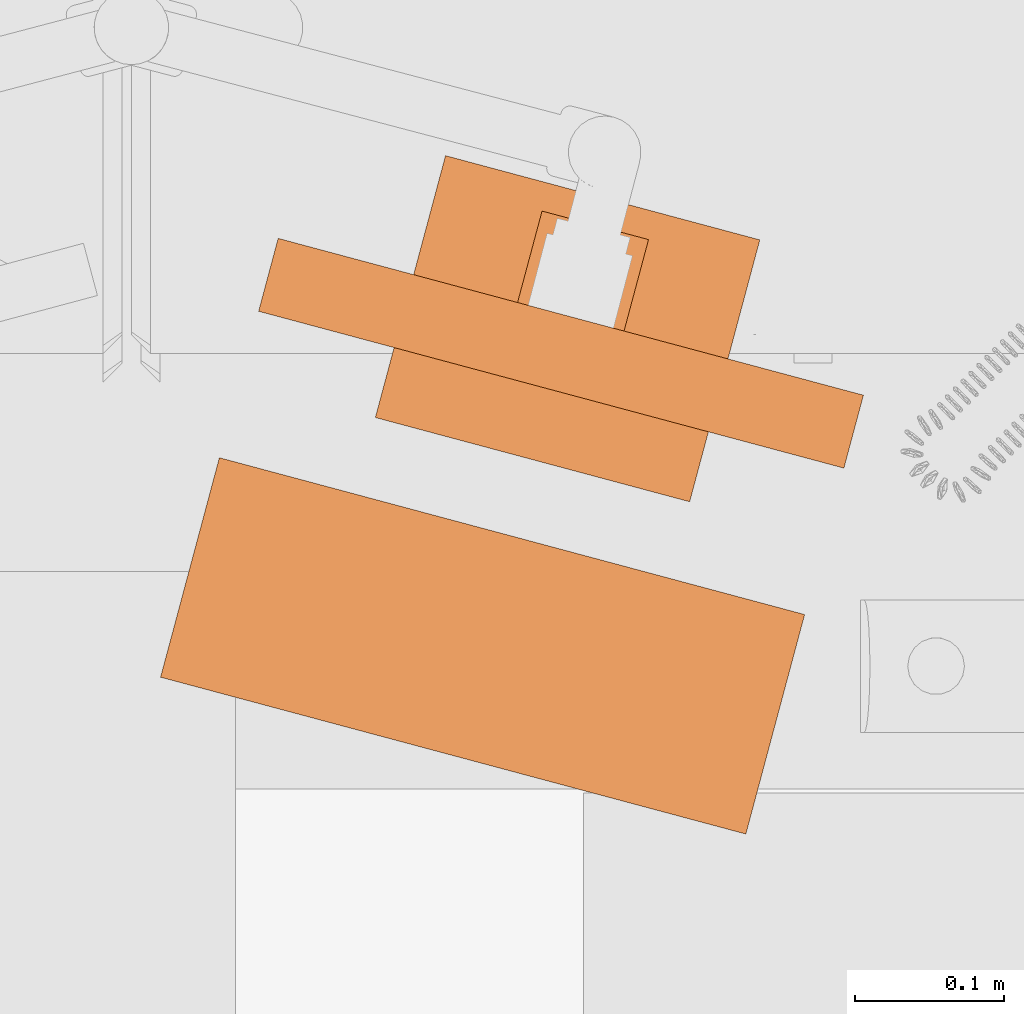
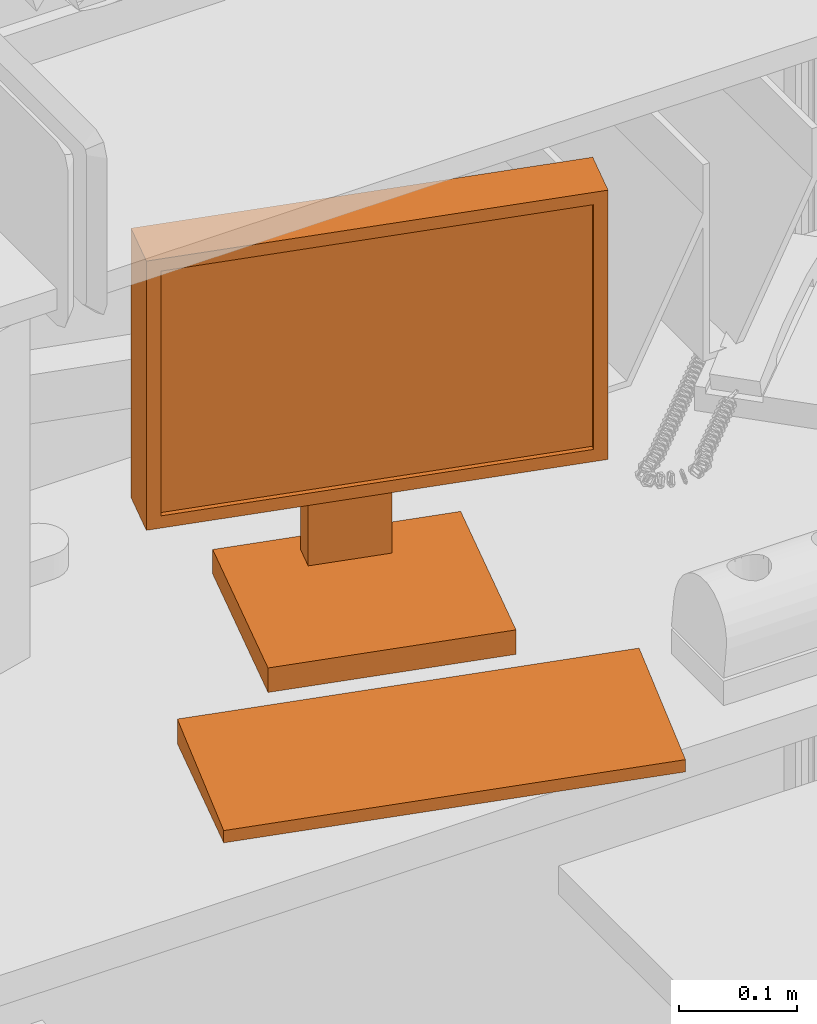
# One storey, part 9 of 9: 1 proxy.
"""IFC2X3 building model written with IfcOpenShell, lengths in feet."""

from ifc_helpers import new_model, entity, si_unit, converted_unit, derived_unit, direction, frame, origin, place, context, subcontext, project, spatial, faceted_brep, source, transform, mapped, type_object, type_shapes, element, save


model = new_model("IFC2X3")

# Units and contexts
model_context = context("Model", 3, precision=0.0001, world=origin(), true_north=direction((6.12303176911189e-17, 1.0)))
body_context = subcontext(model_context, "Body", "Model", "MODEL_VIEW")
ifc_project = project(units=[converted_unit("LENGTHUNIT", "FOOT", entity("IfcRatioMeasure", 0.3048), si_unit("LENGTHUNIT", "METRE"), dimensions=[1, 0, 0, 0, 0, 0, 0]), converted_unit("AREAUNIT", "SQUARE FOOT", entity("IfcRatioMeasure", 0.09290304), si_unit("AREAUNIT", "SQUARE_METRE"), dimensions=[2, 0, 0, 0, 0, 0, 0]), converted_unit("VOLUMEUNIT", "CUBIC FOOT", entity("IfcRatioMeasure", 0.028316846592), si_unit("VOLUMEUNIT", "CUBIC_METRE"), dimensions=[3, 0, 0, 0, 0, 0, 0]), converted_unit("PLANEANGLEUNIT", "DEGREE", entity("IfcRatioMeasure", 0.0174532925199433), si_unit("PLANEANGLEUNIT", "RADIAN"), dimensions=[0, 0, 0, 0, 0, 0, 0]), si_unit("MASSUNIT", "GRAM", prefix="KILO"), derived_unit("MASSDENSITYUNIT", [(si_unit("MASSUNIT", "GRAM", prefix="KILO"), 1), (si_unit("LENGTHUNIT", "METRE"), -3)]), si_unit("TIMEUNIT", "SECOND"), si_unit("FREQUENCYUNIT", "HERTZ"), si_unit("THERMODYNAMICTEMPERATUREUNIT", "DEGREE_CELSIUS"), derived_unit("THERMALTRANSMITTANCEUNIT", [(si_unit("MASSUNIT", "GRAM", prefix="KILO"), 1), (si_unit("THERMODYNAMICTEMPERATUREUNIT", "KELVIN"), -1), (si_unit("TIMEUNIT", "SECOND"), -3)]), derived_unit("VOLUMETRICFLOWRATEUNIT", [(si_unit("LENGTHUNIT", "METRE"), 3), (si_unit("TIMEUNIT", "SECOND"), -1)]), si_unit("ELECTRICCURRENTUNIT", "AMPERE"), si_unit("ELECTRICVOLTAGEUNIT", "VOLT"), si_unit("POWERUNIT", "WATT"), si_unit("FORCEUNIT", "NEWTON"), si_unit("ILLUMINANCEUNIT", "LUX"), si_unit("LUMINOUSFLUXUNIT", "LUMEN"), si_unit("LUMINOUSINTENSITYUNIT", "CANDELA"), derived_unit("USERDEFINED", [(si_unit("MASSUNIT", "GRAM", prefix="KILO"), -1), (si_unit("LENGTHUNIT", "METRE"), -2), (si_unit("TIMEUNIT", "SECOND"), 3), (si_unit("LUMINOUSFLUXUNIT", "LUMEN"), 1)]), derived_unit("LINEARVELOCITYUNIT", [(si_unit("LENGTHUNIT", "METRE"), 1), (si_unit("TIMEUNIT", "SECOND"), -1)]), si_unit("PRESSUREUNIT", "PASCAL"), derived_unit("USERDEFINED", [(si_unit("LENGTHUNIT", "METRE"), -2), (si_unit("MASSUNIT", "GRAM", prefix="KILO"), 1), (si_unit("TIMEUNIT", "SECOND"), -2)])], contexts=[model_context])

# Site, building, storey, space
site_placement = place(None, origin())
site = spatial("IfcSite", under=ifc_project, at=site_placement, Name="Default", CompositionType="ELEMENT")
building_placement = place(site_placement, origin())
building = spatial("IfcBuilding", under=site, at=building_placement, Name="AUDIOLOGY AND SPEECH PATHOLOGY (Ch. 204)", CompositionType="ELEMENT")
storey_placement = place(building_placement, frame((0.0, 0.0, 42.0)))
storey = spatial("IfcBuildingStorey", under=building, at=storey_placement, Name="AUD01 - Audiology Rehabilitation/Counseling", CompositionType="ELEMENT", Elevation=42.0)
space_placement = place(storey_placement, origin())
space = spatial("IfcSpace", under=storey, at=space_placement, Name="(AUD01)", CompositionType="ELEMENT", InteriorOrExteriorSpace="INTERNAL")

# Proxy
building_element_proxy_type = type_object("IfcBuildingElementProxyType", Name="M1801 - Computer, Microprocessing, With Flat Panel Monitor", PredefinedType="NOTDEFINED")
shared_shape = source(origin(), body_context, "Body", "Brep", [
    faceted_brep([(0.666666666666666, 0.437223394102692, 1.41666666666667), (-0.666666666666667, 0.437223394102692, 1.41666666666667), (-0.666666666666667, 0.271109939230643, 1.41666666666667), (0.666666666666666, 0.271109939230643, 1.41666666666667), (0.666666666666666, 0.437223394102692, 0.500000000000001), (0.666666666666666, 0.271109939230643, 0.500000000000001), (-0.666666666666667, 0.271109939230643, 0.500000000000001), (-0.666666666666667, 0.437223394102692, 0.500000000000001), (-0.625, 0.271109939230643, 1.375), (0.625, 0.271109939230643, 1.375), (0.625, 0.271109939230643, 0.541666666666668), (-0.625, 0.271109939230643, 0.541666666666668), (0.625, 0.286812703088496, 1.375), (-0.625, 0.286812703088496, 1.375), (0.625, 0.286812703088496, 0.541666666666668), (-0.625, 0.286812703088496, 0.541666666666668)], [[[0, 1, 2, 3]], [[4, 5, 6, 7]], [[1, 0, 4, 7]], [[2, 1, 7, 6]], [[3, 2, 6, 5], [8, 9, 10, 11]], [[0, 3, 5, 4]], [[12, 9, 8, 13]], [[14, 15, 11, 10]], [[12, 13, 15, 14]], [[13, 8, 11, 15]], [[9, 12, 14, 10]]]),
    faceted_brep([(0.358011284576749, 0.111770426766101, 0.0833333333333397), (0.358011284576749, 0.111770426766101, 0.0), (0.358011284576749, 0.708333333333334, 0.0), (0.358011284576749, 0.708333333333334, 0.0833333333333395), (-0.358011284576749, 0.708333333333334, 0.0833333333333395), (-0.358011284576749, 0.708333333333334, 0.0), (-0.358011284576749, 0.111770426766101, 0.0), (-0.358011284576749, 0.111770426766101, 0.0833333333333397), (0.12128795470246, 0.645556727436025, 0.104166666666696), (0.12128795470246, 0.645556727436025, 0.0833333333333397), (-0.12128795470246, 0.645556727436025, 0.0833333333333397), (-0.12128795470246, 0.645556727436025, 0.104166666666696), (0.12128795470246, 0.645556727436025, 0.958333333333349), (-0.12128795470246, 0.645556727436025, 0.958333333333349), (0.12128795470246, 0.437223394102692, 0.958333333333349), (-0.12128795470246, 0.437223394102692, 0.958333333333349), (0.12128795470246, 0.437223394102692, 0.791666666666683), (-0.12128795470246, 0.437223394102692, 0.791666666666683), (0.12128795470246, 0.562223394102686, 0.791666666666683), (-0.12128795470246, 0.562223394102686, 0.791666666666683), (0.12128795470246, 0.562223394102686, 0.0833333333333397), (-0.12128795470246, 0.562223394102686, 0.0833333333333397)], [[[0, 1, 2, 3]], [[4, 5, 6, 7]], [[8, 9, 10, 11]], [[12, 8, 11, 13]], [[14, 12, 13, 15]], [[16, 14, 15, 17]], [[18, 16, 17, 19]], [[20, 18, 19, 21]], [[0, 3, 4, 7], [9, 20, 21, 10]], [[1, 0, 7, 6]], [[2, 1, 6, 5]], [[3, 2, 5, 4]], [[20, 9, 8, 12, 14, 16, 18]], [[10, 21, 19, 17, 15, 13, 11]]]),
    faceted_brep([(0.666666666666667, -0.5625, 0.0), (0.666666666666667, -0.0624999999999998, 0.0), (0.666666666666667, -0.0624999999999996, 0.0833333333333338), (0.666666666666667, -0.5625, 0.0416666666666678), (-0.666666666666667, -0.5625, 0.0), (-0.666666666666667, -0.5625, 0.0416666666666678), (-0.666666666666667, -0.0624999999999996, 0.0833333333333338), (-0.666666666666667, -0.0624999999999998, 0.0)], [[[0, 1, 2, 3]], [[4, 5, 6, 7]], [[1, 0, 4, 7]], [[2, 1, 7, 6]], [[3, 2, 6, 5]], [[0, 3, 5, 4]]]),
])
type_shapes(building_element_proxy_type, [shared_shape])
proxy_placement = place(space_placement, frame((4.05174793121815, 10.3152003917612, 2.66666666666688), z_axis=(0.0, 0.0, 1.0), x_axis=(0.965925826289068, -0.258819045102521, 0.0)))
element("IfcBuildingElementProxy", 1, at=proxy_placement, inside=space, type_object=building_element_proxy_type, Name="M1801 - Computer, Microprocessing, With Flat Panel Monitor:M1801 - Computer, Microprocessing, With Flat Panel Monitor", ObjectType="M1801 - Computer, Microprocessing, With Flat Panel Monitor", context=body_context, shape_type="MappedRepresentation", body=[
    mapped(shared_shape, transform((0.0, 0.0, 0.0), scale=1.0)),
])

save(model, "model.ifc")
